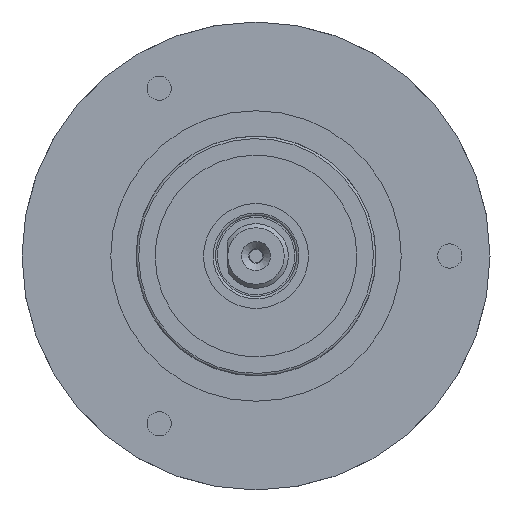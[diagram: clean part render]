
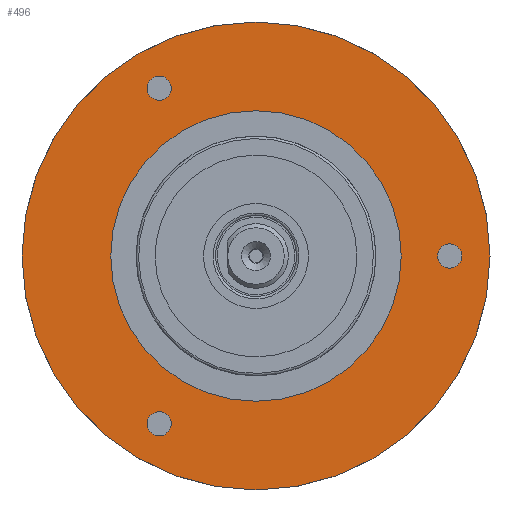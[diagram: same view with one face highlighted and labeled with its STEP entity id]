
A CAD part, left-side view. The second image highlights one B-rep face of the part: STEP entity #496.
In plain terms, the highlighted planar face has unit normal (-1, 0, 0).
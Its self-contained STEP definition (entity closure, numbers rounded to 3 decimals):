
#389=PLANE('',#1542);
#496=ADVANCED_FACE('',(#646,#647,#648,#649,#650),#389,.F.);
#646=FACE_BOUND('',#803,.T.);
#647=FACE_BOUND('',#804,.T.);
#648=FACE_BOUND('',#805,.T.);
#649=FACE_BOUND('',#806,.T.);
#650=FACE_BOUND('',#807,.T.);
#803=EDGE_LOOP('',(#1040));
#804=EDGE_LOOP('',(#1041));
#805=EDGE_LOOP('',(#1042));
#806=EDGE_LOOP('',(#1043));
#807=EDGE_LOOP('',(#1044));
#1040=ORIENTED_EDGE('',*,*,#1306,.F.);
#1041=ORIENTED_EDGE('',*,*,#1309,.F.);
#1042=ORIENTED_EDGE('',*,*,#1310,.F.);
#1043=ORIENTED_EDGE('',*,*,#1312,.F.);
#1044=ORIENTED_EDGE('',*,*,#1314,.F.);
#1185=VERTEX_POINT('',#3177);
#1188=VERTEX_POINT('',#3184);
#1189=VERTEX_POINT('',#3187);
#1191=VERTEX_POINT('',#3192);
#1193=VERTEX_POINT('',#3197);
#1306=EDGE_CURVE('',#1185,#1185,#1391,.T.);
#1309=EDGE_CURVE('',#1188,#1188,#1394,.T.);
#1310=EDGE_CURVE('',#1189,#1189,#1395,.T.);
#1312=EDGE_CURVE('',#1191,#1191,#1397,.T.);
#1314=EDGE_CURVE('',#1193,#1193,#1399,.T.);
#1391=CIRCLE('',#1521,29.);
#1394=CIRCLE('',#1525,18.);
#1395=CIRCLE('',#1527,1.5);
#1397=CIRCLE('',#1530,1.5);
#1399=CIRCLE('',#1533,1.5);
#1521=AXIS2_PLACEMENT_3D('',#3176,#1797,#1798);
#1525=AXIS2_PLACEMENT_3D('',#3183,#1805,#1806);
#1527=AXIS2_PLACEMENT_3D('',#3186,#1809,#1810);
#1530=AXIS2_PLACEMENT_3D('',#3191,#1815,#1816);
#1533=AXIS2_PLACEMENT_3D('',#3196,#1821,#1822);
#1542=AXIS2_PLACEMENT_3D('',#3211,#1839,#1840);
#1797=DIRECTION('',(1.,0.,0.));
#1798=DIRECTION('',(0.,0.,1.));
#1805=DIRECTION('',(-1.,0.,0.));
#1806=DIRECTION('',(0.,0.,1.));
#1809=DIRECTION('',(-1.,0.,0.));
#1810=DIRECTION('',(0.,0.,1.));
#1815=DIRECTION('',(-1.,0.,0.));
#1816=DIRECTION('',(0.,0.,1.));
#1821=DIRECTION('',(-1.,0.,0.));
#1822=DIRECTION('',(0.,0.,1.));
#1839=DIRECTION('',(1.,0.,0.));
#1840=DIRECTION('',(0.,0.,1.));
#3176=CARTESIAN_POINT('',(16.893,28.695,54.521));
#3177=CARTESIAN_POINT('',(16.893,28.695,83.521));
#3183=CARTESIAN_POINT('',(16.893,28.695,54.521));
#3184=CARTESIAN_POINT('',(16.893,28.695,72.521));
#3186=CARTESIAN_POINT('',(16.893,4.695,54.521));
#3187=CARTESIAN_POINT('',(16.893,4.695,56.021));
#3191=CARTESIAN_POINT('',(16.893,40.695,75.305));
#3192=CARTESIAN_POINT('',(16.893,40.695,76.805));
#3196=CARTESIAN_POINT('',(16.893,40.695,33.736));
#3197=CARTESIAN_POINT('',(16.893,40.695,35.236));
#3211=CARTESIAN_POINT('',(16.893,46.695,54.521));
